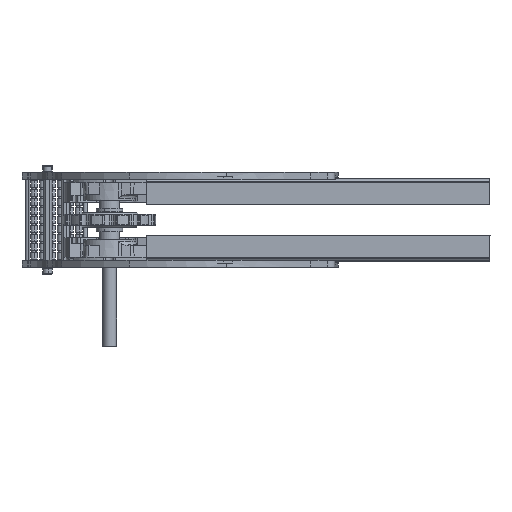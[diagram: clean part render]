
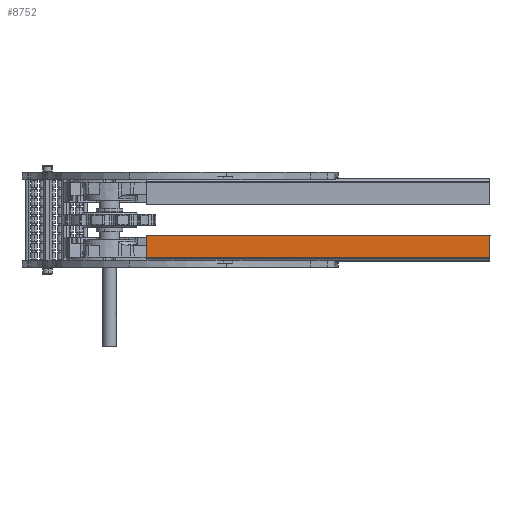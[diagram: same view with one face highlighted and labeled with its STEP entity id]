
A CAD part, front view. The second image highlights one B-rep face of the part: STEP entity #8752.
In plain terms, the highlighted planar face has unit normal (0, -1, 0) as drawn and (0, 1, 0) by its records, which use the part's own axes.
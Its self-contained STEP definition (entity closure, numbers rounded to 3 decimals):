
#8546 = EDGE_CURVE ( 'NONE', #8598, #8801, #24296, .T. ) ;
#8551 = ORIENTED_EDGE ( 'NONE', *, *, #8546, .F. ) ;
#8554 = EDGE_CURVE ( 'NONE', #8801, #8671, #24303, .T. ) ;
#8578 = VERTEX_POINT ( 'NONE', #24293 ) ;
#8597 = EDGE_LOOP ( 'NONE', ( #8730, #8551, #8654, #8638 ) ) ;
#8598 = VERTEX_POINT ( 'NONE', #24398 ) ;
#8638 = ORIENTED_EDGE ( 'NONE', *, *, #8698, .T. ) ;
#8654 = ORIENTED_EDGE ( 'NONE', *, *, #8693, .T. ) ;
#8671 = VERTEX_POINT ( 'NONE', #24356 ) ;
#8693 = EDGE_CURVE ( 'NONE', #8598, #8578, #24557, .T. ) ;
#8698 = EDGE_CURVE ( 'NONE', #8578, #8671, #24460, .T. ) ;
#8730 = ORIENTED_EDGE ( 'NONE', *, *, #8554, .F. ) ;
#8752 = ADVANCED_FACE ( 'NONE', ( #24586 ), #24743, .T. ) ;
#8801 = VERTEX_POINT ( 'NONE', #24801 ) ;
#24293 = CARTESIAN_POINT ( 'NONE',  ( -54.8, 6.9, -500. ) ) ;
#24294 = DIRECTION ( 'NONE',  ( 0., 0., 1. ) ) ;
#24295 = CARTESIAN_POINT ( 'NONE',  ( -22.5, 6.9, -500. ) ) ;
#24296 = LINE ( 'NONE', #24295, #24312 ) ;
#24300 = DIRECTION ( 'NONE',  ( -1., 0., 0. ) ) ;
#24301 = VECTOR ( 'NONE', #24300, 1000. ) ;
#24302 = CARTESIAN_POINT ( 'NONE',  ( -54.8, 6.9, 0. ) ) ;
#24303 = LINE ( 'NONE', #24302, #24301 ) ;
#24312 = VECTOR ( 'NONE', #24294, 1000. ) ;
#24356 = CARTESIAN_POINT ( 'NONE',  ( -54.8, 6.9, 0. ) ) ;
#24398 = CARTESIAN_POINT ( 'NONE',  ( -22.5, 6.9, -500. ) ) ;
#24454 = DIRECTION ( 'NONE',  ( 0., 0., 1. ) ) ;
#24456 = VECTOR ( 'NONE', #24454, 1000. ) ;
#24458 = CARTESIAN_POINT ( 'NONE',  ( -54.8, 6.9, -500. ) ) ;
#24460 = LINE ( 'NONE', #24458, #24456 ) ;
#24492 = AXIS2_PLACEMENT_3D ( 'NONE', #24613, #24612, #24705 ) ;
#24556 = CARTESIAN_POINT ( 'NONE',  ( -54.8, 6.9, -500. ) ) ;
#24557 = LINE ( 'NONE', #24556, #24682 ) ;
#24586 = FACE_OUTER_BOUND ( 'NONE', #8597, .T. ) ;
#24612 = DIRECTION ( 'NONE',  ( 0., 1., 0. ) ) ;
#24613 = CARTESIAN_POINT ( 'NONE',  ( -54.8, 6.9, -500. ) ) ;
#24681 = DIRECTION ( 'NONE',  ( -1., 0., 0. ) ) ;
#24682 = VECTOR ( 'NONE', #24681, 1000. ) ;
#24705 = DIRECTION ( 'NONE',  ( 0., 0., 1. ) ) ;
#24743 = PLANE ( 'NONE',  #24492 ) ;
#24801 = CARTESIAN_POINT ( 'NONE',  ( -22.5, 6.9, 0. ) ) ;
